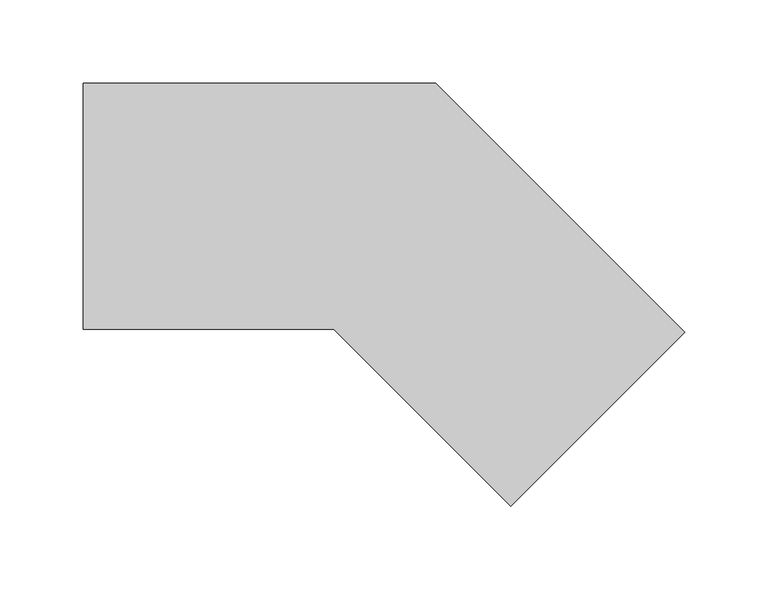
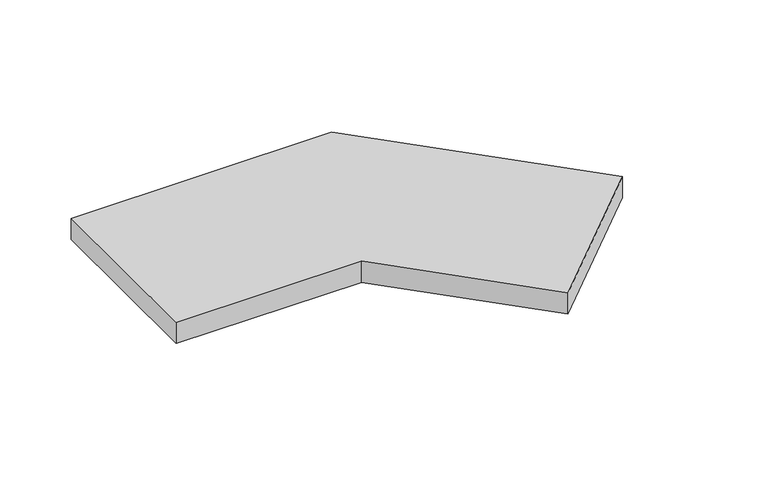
"""IFC4 building model written with IfcOpenShell, lengths in millimetres: proxy geometry, TECHNO_Решетка_KVU : Решетка рулонная алюминиевая/ Белый RAL 9016."""

from ifc_helpers import new_model, si_unit, frame, origin, place, context, project, spatial, polyline, outline, extrude, source, transform, mapped, element, save


def mechanical_equipment_25e5aaf1(model_context):
    return source(origin(), model_context, "Body", "SweptSolid", [
        extrude(outline(polyline([(180.1241267, -75.7551657), (75.7551657, -180.1241267), (-30.5689609, -73.8), (-180.9339828, -73.8), (-180.9339828, 73.8), (30.5689609, 73.8), (180.1241267, -75.7551657)])), frame((0.0, 0.0, -18.1), z_axis=(0.0, 0.0, 1.0), x_axis=(1.0, 0.0, 0.0)), (0.0, 0.0, 1.0), 18.1),
    ])


if __name__ == "__main__":
    model = new_model("IFC4")
    model_context = context("Model", 3, world=origin())
    ifc_project = project(units=[si_unit("LENGTHUNIT", "METRE", prefix="MILLI")], contexts=[model_context])
    site = spatial("IfcSite", under=ifc_project)
    building = spatial("IfcBuilding", under=site)
    placement = place(None, origin())
    mechanical_equipment_shape = mechanical_equipment_25e5aaf1(model_context)
    element("IfcBuildingElementProxy", 1, Name="TECHNO_Решетка_KVU : Решетка рулонная алюминиевая/ Белый RAL 9016", ObjectType="TECHNO_Решетка_KVU : Решетка рулонная алюминиевая/ Белый RAL 9016", at=placement, inside=building, context=model_context, shape_type="MappedRepresentation", body=[
        mapped(mechanical_equipment_shape, transform((0.0, 0.0, 0.0), x_axis=(1.0, 0.0, 0.0), y_axis=(0.0, 1.0, 0.0), z_axis=(0.0, 0.0, 1.0))),
    ])
    save(model, "model.ifc")
